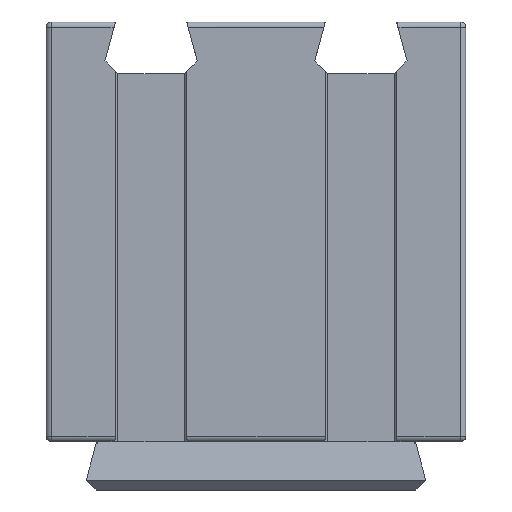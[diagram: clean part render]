
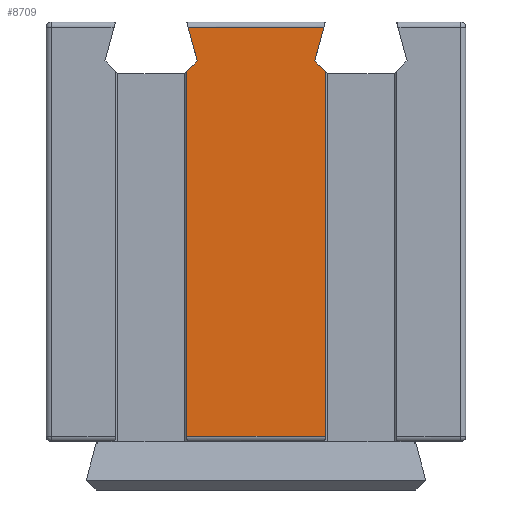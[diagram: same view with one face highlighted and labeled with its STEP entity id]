
A CAD part, left-side view. The second image highlights one B-rep face of the part: STEP entity #8709.
In plain terms, the highlighted planar face has unit normal (-1, 0, 0).
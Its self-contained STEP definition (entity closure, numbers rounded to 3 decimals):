
#82=PLANE('',#9346);
#668=FACE_OUTER_BOUND('',#1186,.T.);
#1186=EDGE_LOOP('',(#6572,#6573,#6574,#6575,#6576,#6577,#6578,#6579));
#1812=LINE('',#12836,#2945);
#1816=LINE('',#12844,#2949);
#1912=LINE('',#13079,#3045);
#1916=LINE('',#13088,#3049);
#1918=LINE('',#13091,#3051);
#1919=LINE('',#13093,#3052);
#1920=LINE('',#13095,#3053);
#1921=LINE('',#13096,#3054);
#2945=VECTOR('',#10280,10.);
#2949=VECTOR('',#10286,20.);
#3045=VECTOR('',#10482,10.);
#3049=VECTOR('',#10492,20.);
#3051=VECTOR('',#10496,20.);
#3052=VECTOR('',#10497,20.);
#3053=VECTOR('',#10498,20.);
#3054=VECTOR('',#10499,20.);
#4180=VERTEX_POINT('',#12829);
#4183=VERTEX_POINT('',#12834);
#4186=VERTEX_POINT('',#12842);
#4274=VERTEX_POINT('',#13076);
#4275=VERTEX_POINT('',#13078);
#4277=VERTEX_POINT('',#13087);
#4278=VERTEX_POINT('',#13092);
#4279=VERTEX_POINT('',#13094);
#5002=EDGE_CURVE('',#4183,#4180,#1812,.T.);
#5006=EDGE_CURVE('',#4183,#4186,#1816,.T.);
#5127=EDGE_CURVE('',#4274,#4275,#1912,.T.);
#5132=EDGE_CURVE('',#4277,#4275,#1916,.T.);
#5134=EDGE_CURVE('',#4186,#4277,#1918,.T.);
#5135=EDGE_CURVE('',#4274,#4278,#1919,.T.);
#5136=EDGE_CURVE('',#4278,#4279,#1920,.T.);
#5137=EDGE_CURVE('',#4279,#4180,#1921,.T.);
#6572=ORIENTED_EDGE('',*,*,#5002,.F.);
#6573=ORIENTED_EDGE('',*,*,#5006,.T.);
#6574=ORIENTED_EDGE('',*,*,#5134,.T.);
#6575=ORIENTED_EDGE('',*,*,#5132,.T.);
#6576=ORIENTED_EDGE('',*,*,#5127,.F.);
#6577=ORIENTED_EDGE('',*,*,#5135,.T.);
#6578=ORIENTED_EDGE('',*,*,#5136,.T.);
#6579=ORIENTED_EDGE('',*,*,#5137,.T.);
#8709=ADVANCED_FACE('',(#668),#82,.F.);
#9346=AXIS2_PLACEMENT_3D('',#13090,#10494,#10495);
#10280=DIRECTION('',(0.,1.,0.));
#10286=DIRECTION('',(0.,0.,1.));
#10482=DIRECTION('',(0.,-1.,0.));
#10492=DIRECTION('',(0.,-0.259,0.966));
#10494=DIRECTION('center_axis',(1.,0.,0.));
#10495=DIRECTION('ref_axis',(0.,0.,1.));
#10496=DIRECTION('',(0.,0.707,0.707));
#10497=DIRECTION('',(0.,-0.259,-0.966));
#10498=DIRECTION('',(0.,0.707,-0.707));
#10499=DIRECTION('',(0.,0.,-1.));
#12829=CARTESIAN_POINT('',(-15.,-16.4,-18.5));
#12834=CARTESIAN_POINT('',(-15.,-29.6,-18.5));
#12836=CARTESIAN_POINT('',(-15.,-33.,-18.5));
#12842=CARTESIAN_POINT('',(-15.,-29.6,16.297));
#12844=CARTESIAN_POINT('',(-15.,-29.6,12.));
#13076=CARTESIAN_POINT('',(-15.,-16.534,20.5));
#13078=CARTESIAN_POINT('',(-15.,-29.466,20.5));
#13079=CARTESIAN_POINT('',(-15.,-23.,20.5));
#13087=CARTESIAN_POINT('',(-15.,-28.606,17.291));
#13088=CARTESIAN_POINT('',(-15.,-26.382,8.99));
#13090=CARTESIAN_POINT('Origin',(-15.,-23.,1.));
#13091=CARTESIAN_POINT('',(-15.,-31.878,14.019));
#13092=CARTESIAN_POINT('',(-15.,-17.394,17.291));
#13093=CARTESIAN_POINT('',(-15.,-19.121,10.845));
#13094=CARTESIAN_POINT('',(-15.,-16.4,16.297));
#13095=CARTESIAN_POINT('',(-15.,-14.723,14.62));
#13096=CARTESIAN_POINT('',(-15.,-16.4,12.));
